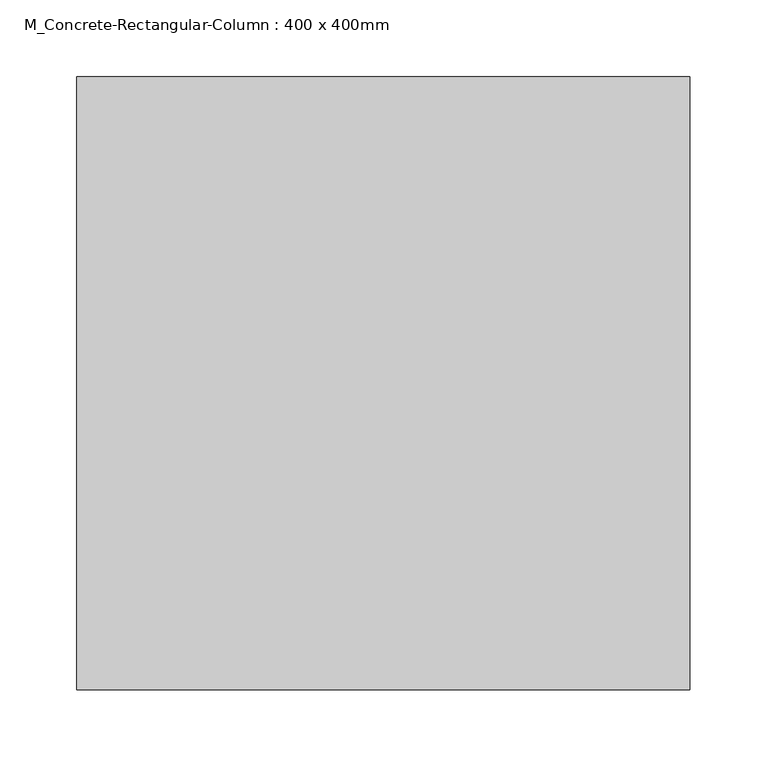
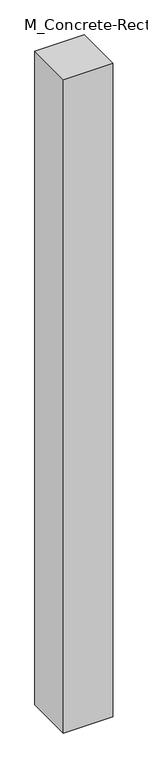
"""IFC4 building model written with IfcOpenShell, lengths in millimetres: column geometry, M_Concrete-Rectangular-Column : 400 x 400mm."""

from ifc_helpers import new_model, si_unit, frame, origin, place, context, project, spatial, polyline, outline, extrude, source, transform, mapped, element, save


def m_concrete_rectangular_column_400_x_400mm_518cfa90(model_context):
    return source(origin(), model_context, "Body", "SweptSolid", [
        extrude(outline(polyline([(200.0, 200.0), (200.0, -200.0), (-200.0, -200.0), (-200.0, 200.0), (200.0, 200.0)])), frame((0.0, 0.0, -600.0), z_axis=(0.0, 0.0, 1.0), x_axis=(1.0, 0.0, 0.0)), (0.0, 0.0, 1.0), 5600.0),
    ])


if __name__ == "__main__":
    model = new_model("IFC4")
    model_context = context("Model", 3, world=origin())
    ifc_project = project(units=[si_unit("LENGTHUNIT", "METRE", prefix="MILLI")], contexts=[model_context])
    site = spatial("IfcSite", under=ifc_project)
    building = spatial("IfcBuilding", under=site)
    placement = place(None, origin())
    m_concrete_rectangular_column_400_x_400mm_shape = m_concrete_rectangular_column_400_x_400mm_518cfa90(model_context)
    element("IfcColumn", 1, ObjectType="M_Concrete-Rectangular-Column : 400 x 400mm", at=placement, inside=building, context=model_context, shape_type="MappedRepresentation", body=[
        mapped(m_concrete_rectangular_column_400_x_400mm_shape, transform((0.0, 0.0, 0.0), x_axis=(1.0, 0.0, 0.0), y_axis=(0.0, 1.0, 0.0), z_axis=(0.0, 0.0, 1.0))),
    ])
    save(model, "model.ifc")
